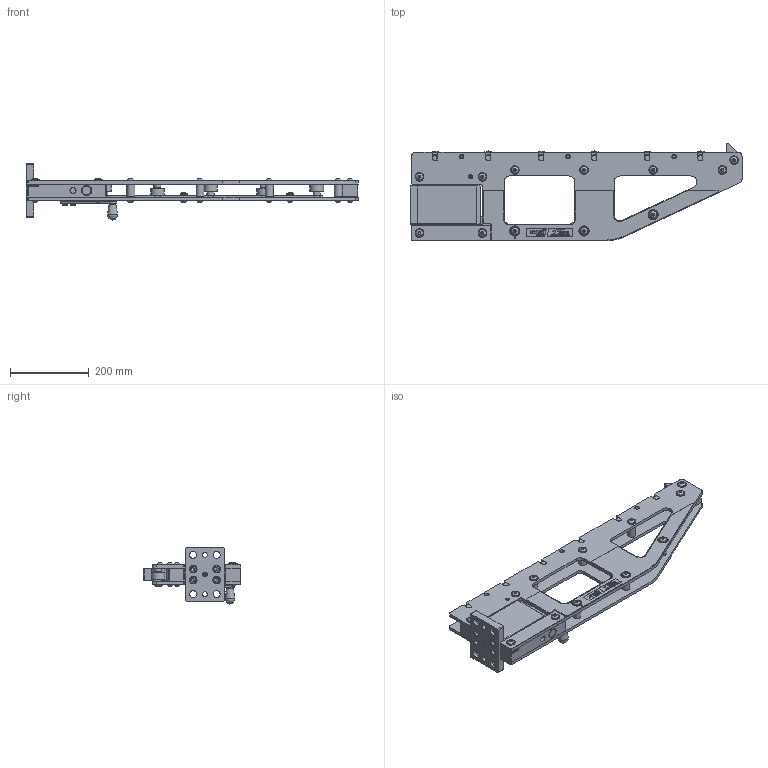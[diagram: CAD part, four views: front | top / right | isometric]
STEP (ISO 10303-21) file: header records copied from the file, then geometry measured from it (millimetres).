
FILE_DESCRIPTION(/* description */ ('CONSOLE PLATE RIGHT'),/* implementation_level */ '2;1');
FILE_NAME(/* name */ 'C:\Users\jaccow\AppData\Local\Temp\Cadac\NetworkPub\step\FB657-950.iam.stp',/* time_stamp */ '2017-12-14T12:24:33+01:00',/* author */ ('Yue'),/* organization */ (''),/* preprocessor_version */ 'ST-DEVELOPER v16.1',/* originating_system */ 'Autodesk Inventor 2016',/* authorisation */ '');
FILE_SCHEMA (('AUTOMOTIVE_DESIGN { 1 0 10303 214 3 1 1 }'));
Products named in the file (35): FB661-101; FB622-186; FB832-690; FB676-690; FB620-044; FB621-104; FB627-104; DQ1504-281; FB662-101; CAE1100-1081A; DQ1397-120; FB845-026; FB846-026; CCE1020-028-9A; FB828-298; FB659-950; FB631-101; FB831-690; CCA1225-0281A; FB633-061; FB632-070; PP0306-070; CBA821-0281B; CAA1231-0612C; PP0307-155; PP0308-155; PP0309-110; PP0304-108; PP0378-108; PP0377-130; FB637-950; PP0311-071; FB653-104; CCA615-0285C; FB657-950
Assembly tree (93 placements, depth 3):
  FB657-950
    FB659-950
      FB661-101  x2
      FB622-186  x7
      FB832-690
      FB676-690
      FB620-044
      FB621-104  x5
      FB627-104  x6
      DQ1504-281  x6
      FB662-101
      CAE1100-1081A  x3
      DQ1397-120  x3
      FB845-026
      FB846-026
      CCE1020-028-9A  x27
      FB828-298
    FB637-950
      FB631-101
      FB831-690
      CCA1225-0281A  x4
      FB633-061
      FB632-070
      PP0306-070
      CBA821-0281B
      CAA1231-0612C
      PP0307-155  x2
      PP0308-155
      PP0309-110
      PP0304-108  x2
      PP0378-108  x2
      PP0377-130  x2
    PP0311-071
    FB653-104
    CCA615-0285C  x2
Bounding box: 844 x 248.57 x 142.51 mm (x, y, z)
Volume: 3707692.9 mm3; surface area: 1114971.2 mm2
Topology: 117 solids, 117 shells, 4071 faces, 9921 edges, 6468 vertices
Faces by surface type: plane 2257, bspline 888, cylinder 461, cone 354, torus 110, sphere 1
Full cylindrical faces by diameter (mm): 1.215 x6, 2.4 x6, 3 x1, 4.773 x2, 4.917 x4, 4.918 x1, 6 x4, 6.4 x1, 6.647 x1, 7.42 x2, 8 x5, 8.1 x1, 8.376 x15, 8.4 x4, 8.5 x1, 10 x44, 10.106 x4, 10.5 x3, 11 x3, 11.5 x8, 12 x6, 12.1 x3, 13 x2, 13.5 x4, 15 x14, 15.425 x1, 15.95 x5, 16 x15, 16.1 x1, 17 x2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
Entity records: 97902 total; most frequent: CARTESIAN_POINT 29948, ORIENTED_EDGE 14684, DIRECTION 10418, EDGE_CURVE 7333, LINE 5024, VECTOR 5024, VERTEX_POINT 4984, EDGE_LOOP 3522
